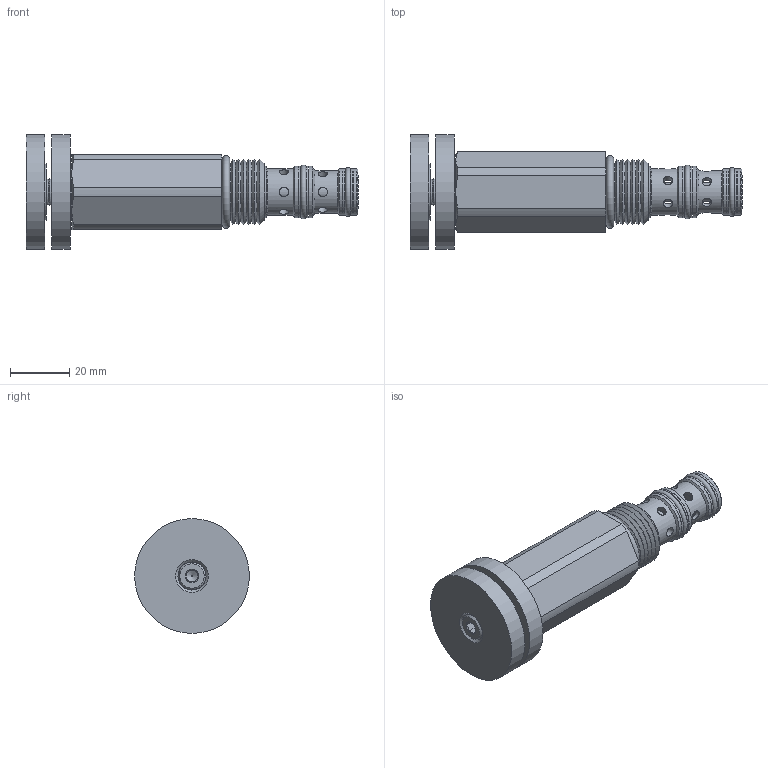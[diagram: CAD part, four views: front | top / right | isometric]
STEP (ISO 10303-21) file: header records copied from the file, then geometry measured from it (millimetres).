
FILE_DESCRIPTION((''),'2;1');
FILE_NAME('Q:\Delta CADD Insertion Codes\3D Solid models\Mechanical Valves\DWG\DFPCT0K.stp','2012-12-06T13:16:50',('Dan'),(''),'Autodesk Inventor 2012','Autodesk Inventor 2012','');
FILE_SCHEMA(('AUTOMOTIVE_DESIGN { 1 0 10303 214 1 1 1 1 }'));
Length unit declared in the file: inch
Products named in the file (11): Assembly8; Part98; Part100; Part102; Part104; Part106; Part108; Part110; Part112; Part114; Part116
Assembly tree (10 placements, depth 2):
  Assembly8
    Part98
    Part100
    Part102
    Part104
    Part106
    Part108
    Part110
    Part112
    Part114
    Part116
Bounding box: 112.34 x 38.86 x 38.86 mm (x, y, z)
Volume: 53291.8 mm3; surface area: 19430.5 mm2
Topology: 10 solids, 10 shells, 175 faces, 367 edges, 222 vertices
Faces by surface type: cone 64, cylinder 54, plane 54, torus 3
Full cylindrical faces by diameter (mm): 3.175 x12, 3.962 x1, 6.363 x1, 8.128 x1, 9.525 x2, 10.081 x3, 11.097 x5, 11.11 x1, 12.992 x1, 13.043 x2, 14.224 x1, 14.592 x1, 14.643 x2, 15.748 x1, 15.773 x2, 15.786 x2, 17.323 x1, 17.374 x2, 17.386 x2, 19.05 x2, 19.622 x1, 38.862 x2
Entity records: 5159 total; most frequent: CARTESIAN_POINT 1535, DIRECTION 741, ORIENTED_EDGE 516, AXIS2_PLACEMENT_3D 352, EDGE_LOOP 321, EDGE_CURVE 258, VERTEX_POINT 207, FACE_OUTER_BOUND 175
